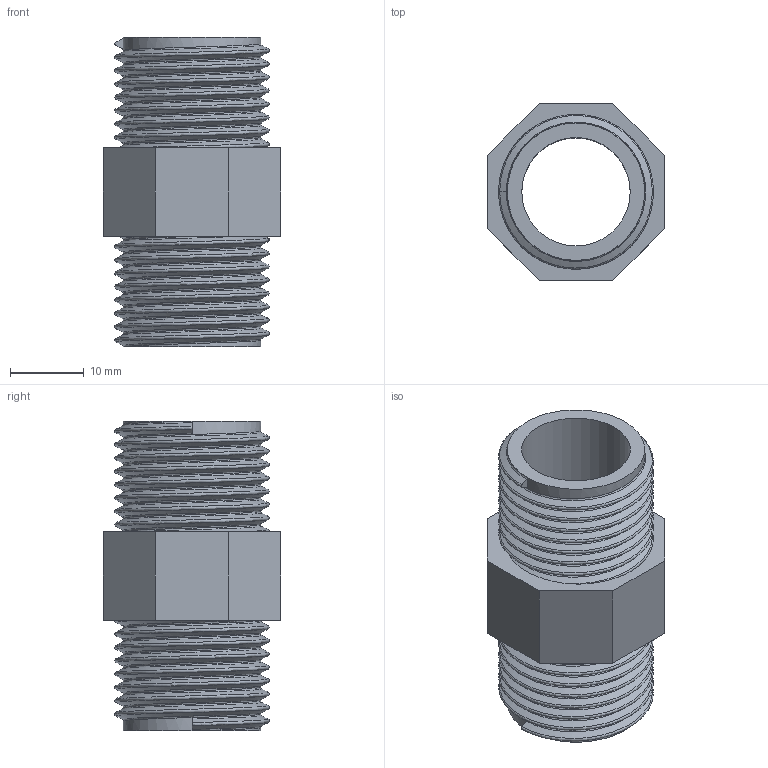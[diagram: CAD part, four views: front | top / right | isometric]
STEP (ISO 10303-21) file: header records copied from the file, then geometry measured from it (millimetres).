
FILE_DESCRIPTION(/* description */ ('PVC-U nipplo filettato BSP'),/* implementation_level */ '2;1');
FILE_NAME(/* name */ 'C:\Users\POLYPIPE\Desktop\DATASET INVENTOR\LIBRERIA EFFAST\RACCORDI 3DxWEB\RER\3D_RERNIE\3D_RERNIE020B.stp',/* time_stamp */ '2018-01-19T16:42:44+01:00',/* author */ ('POLYPIPE'),/* organization */ ('Polypipe Italia s.r.l.'),/* preprocessor_version */ 'ST-DEVELOPER v16.1',/* originating_system */ 'Autodesk Inventor 2016',/* authorisation */ '');
FILE_SCHEMA (('CONFIG_CONTROL_DESIGN'));
Length unit declared in the file: millimetre
Products named in the file (1): 3D_RERNIE
Bounding box: 24 x 24 x 42 mm (x, y, z)
Volume: 7780.9 mm3; surface area: 6543.2 mm2
Topology: 1 solids, 1 shells, 27 faces, 63 edges, 40 vertices
Faces by surface type: plane 14, bspline 10, cylinder 3
Full cylindrical faces by diameter (mm): 14.7 x1, 18.631 x2
Entity records: 6940 total; most frequent: CARTESIAN_POINT 6362, ORIENTED_EDGE 124, DIRECTION 86, EDGE_CURVE 62, VERTEX_POINT 40, EDGE_LOOP 32, LINE 30, VECTOR 30
